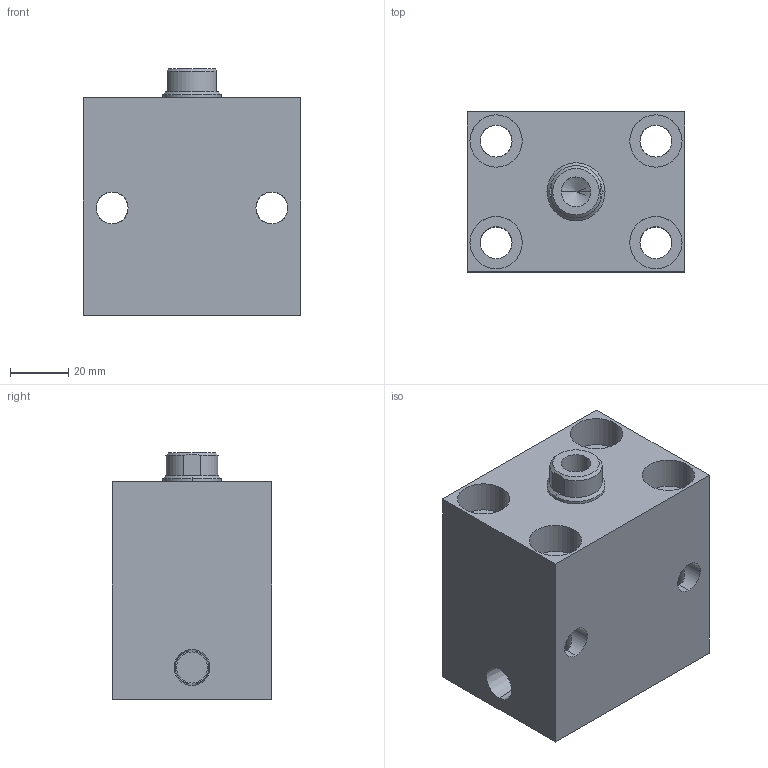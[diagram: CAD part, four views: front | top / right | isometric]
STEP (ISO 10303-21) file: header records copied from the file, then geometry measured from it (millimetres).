
FILE_DESCRIPTION (( 'STEP AP203' ), '1' );
FILE_NAME ('HBC-32S-10N装配体.STEP', '2019-11-29T08:56:39', ( '微软用户' ), ( '微软中国' ), 'SwSTEP 2.0', 'SolidWorks 2012', '' );
FILE_SCHEMA (( 'CONFIG_CONTROL_DESIGN' ));
Length unit declared in the file: millimetre
Products named in the file (3): HBC-32S-10N掛极; HBC-32S-10N活塞杆; HBC-32S-10N蚾饜极
Assembly tree (2 placements, depth 2):
  HBC-32S-10N蚾饜极
    HBC-32S-10N掛极
    HBC-32S-10N活塞杆
Bounding box: 75 x 55 x 85 mm (x, y, z)
Volume: 266620.8 mm3; surface area: 45114.5 mm2
Topology: 2 solids, 2 shells, 73 faces, 178 edges, 107 vertices
Faces by surface type: cylinder 46, plane 19, cone 8
Entity records: 2473 total; most frequent: CARTESIAN_POINT 481, DIRECTION 366, ORIENTED_EDGE 352, EDGE_CURVE 176, AXIS2_PLACEMENT_3D 148, VERTEX_POINT 107, EDGE_LOOP 93, ADVANCED_FACE 73
